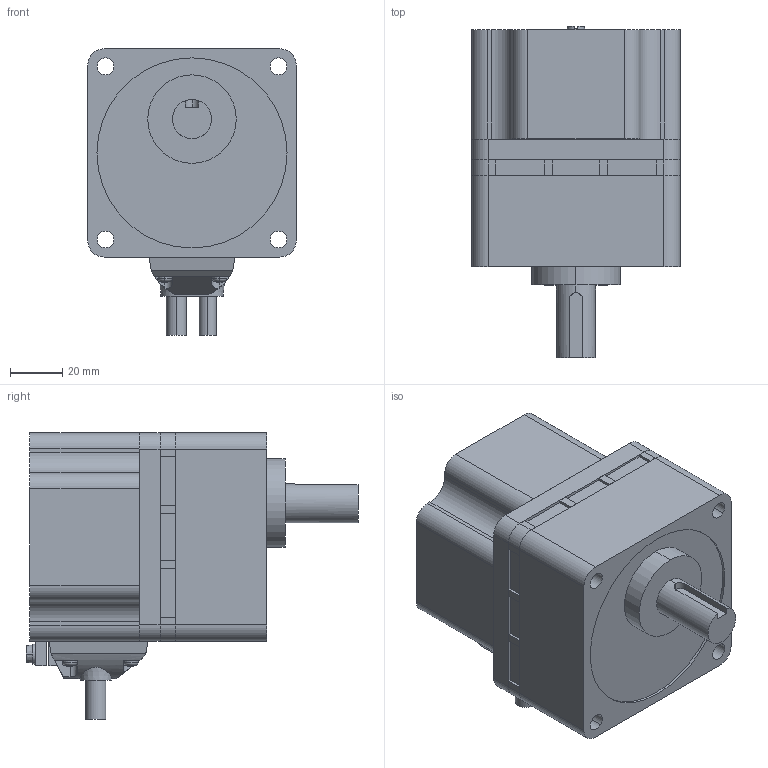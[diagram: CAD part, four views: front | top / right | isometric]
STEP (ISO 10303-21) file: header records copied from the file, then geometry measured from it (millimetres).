
FILE_DESCRIPTION(('starvars output'),'2;1');
FILE_NAME('BLF460S-20.stp','15:04:30 2015/05/11',( 'Thomas Industrial Network Germany GmbH'),( 'Thomas Industrial Network Germany GmbH'),'unknown preprocess','ACIS' ,'unknown authorization');
FILE_SCHEMA(('AUTOMOTIVE_DESIGN_CC2 {UNKNOWN IMPLEMENTATION LEVEL}'));
Length unit declared in the file: millimetre
Products named in the file (1): PRODUCT_ID_190
Bounding box: 80 x 127.5 x 110 mm (x, y, z)
Volume: 554784 mm3; surface area: 49194 mm2
Topology: 1 solids, 1 shells, 285 faces, 762 edges, 493 vertices
Faces by surface type: plane 189, cylinder 64, torus 12, cone 12, bspline 8
Entity records: 11003 total; most frequent: CARTESIAN_POINT 2023, ORIENTED_EDGE 1524, DIRECTION 1203, EDGE_CURVE 762, VERTEX_POINT 493, VECTOR 457, LINE 457, AXIS2_PLACEMENT_3D 373
